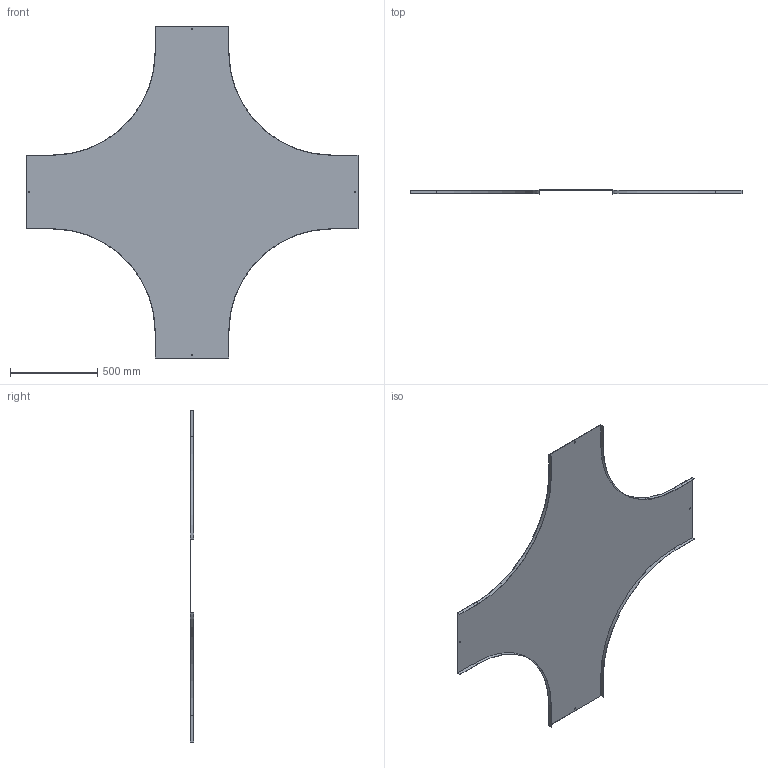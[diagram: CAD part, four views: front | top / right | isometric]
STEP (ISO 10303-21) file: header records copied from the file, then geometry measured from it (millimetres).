
FILE_DESCRIPTION (( 'STEP AP214' ), '1' );
FILE_NAME ('17N6P400.step', '2025-02-21T13:57:36', ( '' ), ( '' ), 'SwSTEP 2.0', 'SolidWorks 2023', '' );
FILE_SCHEMA (( 'AUTOMOTIVE_DESIGN' ));
Length unit declared in the file: millimetre
Products named in the file (1): 17N6P400
Bounding box: 1900 x 20 x 1900 mm (x, y, z)
Volume: 2724337.4 mm3; surface area: 3642742.4 mm2
Topology: 1 solids, 1 shells, 50 faces, 144 edges, 96 vertices
Faces by surface type: plane 42, cylinder 8
Entity records: 1663 total; most frequent: CARTESIAN_POINT 291, ORIENTED_EDGE 288, DIRECTION 262, EDGE_CURVE 144, LINE 128, VECTOR 128, VERTEX_POINT 96, AXIS2_PLACEMENT_3D 67
